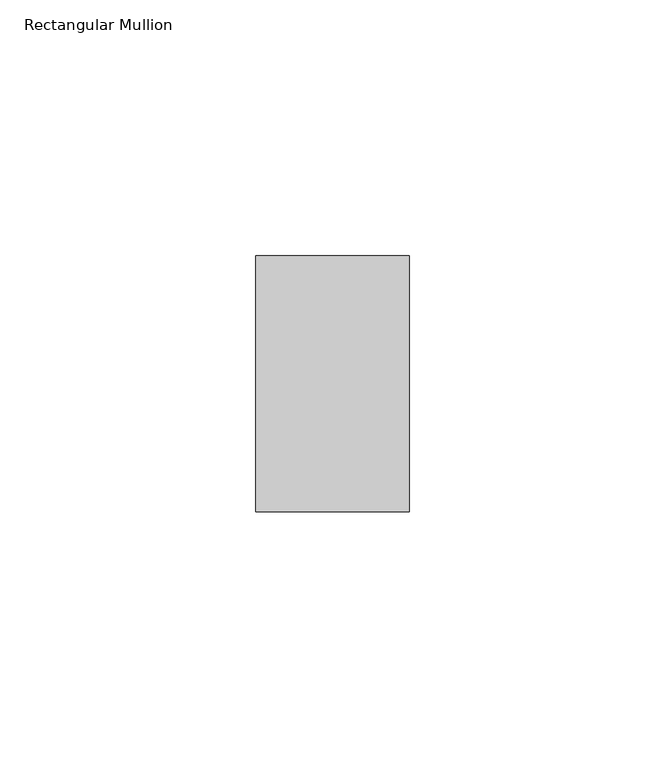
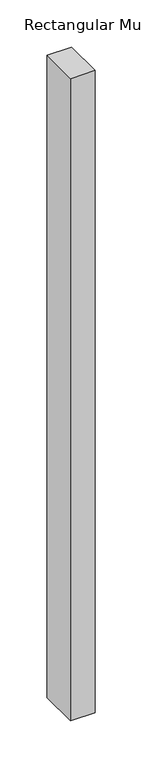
"""IFC4 building model written with IfcOpenShell, lengths in millimetres: member geometry, Rectangular Mullion : ARQ_TV_MULL_50x30mm."""

from ifc_helpers import new_model, si_unit, frame, origin, place, context, project, spatial, polyline, outline, extrude, source, transform, mapped, element, save


def rectangular_mullion_8654e992(model_context):
    return source(origin(), model_context, "Body", "SweptSolid", [
        extrude(outline(polyline([(0.0, 25.0), (0.0, -25.0), (-30.0, -25.0), (-30.0, 25.0), (0.0, 25.0)])), frame((0.0, 0.0, -833.3333334), z_axis=(0.0, 0.0, 1.0), x_axis=(1.0, 0.0, 0.0)), (0.0, 0.0, 1.0), 833.3333334),
    ])


if __name__ == "__main__":
    model = new_model("IFC4")
    model_context = context("Model", 3, world=origin())
    ifc_project = project(units=[si_unit("LENGTHUNIT", "METRE", prefix="MILLI")], contexts=[model_context])
    site = spatial("IfcSite", under=ifc_project)
    building = spatial("IfcBuilding", under=site)
    placement = place(None, origin())
    rectangular_mullion_shape = rectangular_mullion_8654e992(model_context)
    element("IfcMember", 1, ObjectType="Rectangular Mullion : ARQ_TV_MULL_50x30mm", at=placement, inside=building, context=model_context, shape_type="MappedRepresentation", body=[
        mapped(rectangular_mullion_shape, transform((0.0, 0.0, 0.0), x_axis=(1.0, 0.0, 0.0), y_axis=(0.0, 1.0, 0.0), z_axis=(0.0, 0.0, 1.0))),
    ])
    save(model, "model.ifc")
